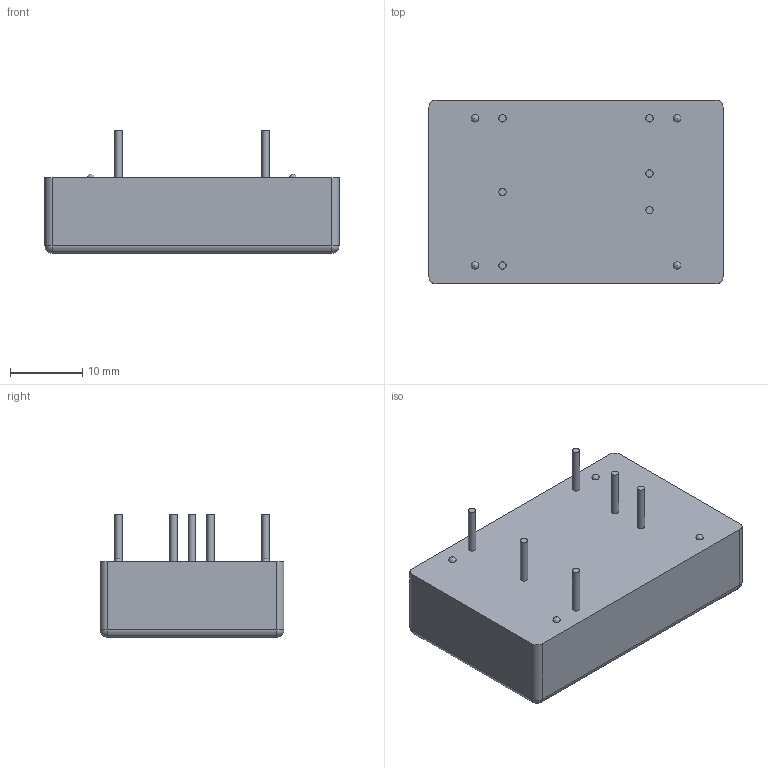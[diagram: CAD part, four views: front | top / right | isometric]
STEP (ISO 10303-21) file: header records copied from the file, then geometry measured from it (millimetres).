
FILE_DESCRIPTION(/* description */ ('Unknown'),/* implementation_level */ '2;1');
FILE_NAME(/* name */ 'JTD15(S)',/* time_stamp */ '2017-11-29T09:32:05+08:00',/* author */ ('Unknown'),/* organization */ ('Unknown'),/* preprocessor_version */ 'ST-DEVELOPER v16.7',/* originating_system */ 'DEX',/* authorisation */ $);
FILE_SCHEMA (('AUTOMOTIVE_DESIGN {1 0 10303 214 3 1 1}'));
Length unit declared in the file: millimetre
Products named in the file (1): JTD15(S)
Bounding box: 40.64 x 25.4 x 16.9 mm (x, y, z)
Volume: 10730.5 mm3; surface area: 3487.8 mm2
Topology: 1 solids, 1 shells, 34 faces, 80 edges, 50 vertices
Faces by surface type: cylinder 14, plane 12, sphere 8
Full cylindrical faces by diameter (mm): 1 x6
Entity records: 810 total; most frequent: DIRECTION 154, CARTESIAN_POINT 123, ORIENTED_EDGE 104, AXIS2_PLACEMENT_3D 67, EDGE_CURVE 52, EDGE_LOOP 50, FACE_BOUND 50, VERTEX_POINT 36
